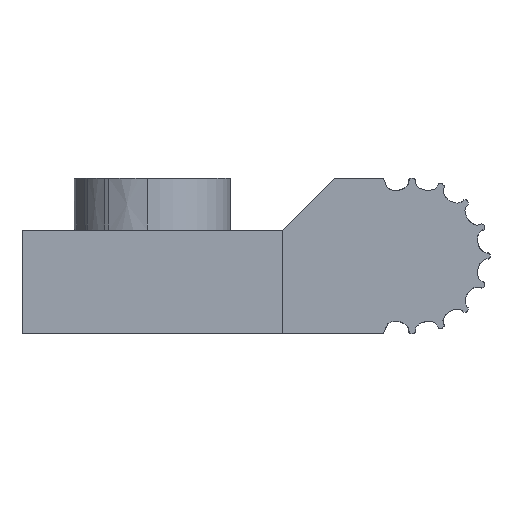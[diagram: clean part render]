
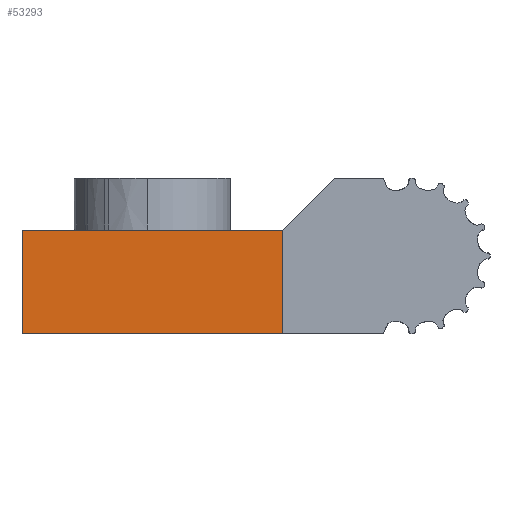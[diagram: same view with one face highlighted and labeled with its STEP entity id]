
A CAD part, left-side view. The second image highlights one B-rep face of the part: STEP entity #53293.
In plain terms, the highlighted planar face has unit normal (-1, -0.001, 0.001).
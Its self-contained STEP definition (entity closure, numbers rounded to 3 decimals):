
#32 = PLANE('',#33);
#33 = AXIS2_PLACEMENT_3D('',#34,#35,#36);
#34 = CARTESIAN_POINT('',(0.112,1.355,
    0.));
#35 = DIRECTION('',(0.,0.,1.));
#36 = DIRECTION('',(0.,1.,0.));
#281 = VERTEX_POINT('',#282);
#282 = CARTESIAN_POINT('',(-7.997,-0.806,
    0.));
#296 = PLANE('',#297);
#297 = AXIS2_PLACEMENT_3D('',#298,#299,#300);
#298 = CARTESIAN_POINT('',(-5.699,-0.806,
    1.597));
#299 = DIRECTION('',(0.,-1.,0.));
#300 = DIRECTION('',(-0.,0.,1.));
#308 = EDGE_CURVE('',#281,#309,#311,.T.);
#309 = VERTEX_POINT('',#310);
#310 = CARTESIAN_POINT('',(-8.004,7.2,
    0.));
#311 = SURFACE_CURVE('',#312,(#316,#323),.PCURVE_S1.);
#312 = LINE('',#313,#314);
#313 = CARTESIAN_POINT('',(-7.997,-0.806,
    0.));
#314 = VECTOR('',#315,1.);
#315 = DIRECTION('',(-0.001,1.,
    0.));
#316 = PCURVE('',#32,#317);
#317 = DEFINITIONAL_REPRESENTATION('',(#318),#322);
#318 = LINE('',#319,#320);
#319 = CARTESIAN_POINT('',(-2.161,8.11));
#320 = VECTOR('',#321,1.);
#321 = DIRECTION('',(1.,0.001));
#322 = ( GEOMETRIC_REPRESENTATION_CONTEXT(2) 
PARAMETRIC_REPRESENTATION_CONTEXT() REPRESENTATION_CONTEXT('2D SPACE',''
  ) );
#323 = PCURVE('',#324,#329);
#324 = PLANE('',#325);
#325 = AXIS2_PLACEMENT_3D('',#326,#327,#328);
#326 = CARTESIAN_POINT('',(-8.,3.198,1.596
    ));
#327 = DIRECTION('',(-1.,-0.001,
    0.001));
#328 = DIRECTION('',(-0.001,0.,-1.));
#329 = DEFINITIONAL_REPRESENTATION('',(#330),#334);
#330 = LINE('',#331,#332);
#331 = CARTESIAN_POINT('',(1.596,4.005));
#332 = VECTOR('',#333,1.);
#333 = DIRECTION('',(0.,-1.));
#334 = ( GEOMETRIC_REPRESENTATION_CONTEXT(2) 
PARAMETRIC_REPRESENTATION_CONTEXT() REPRESENTATION_CONTEXT('2D SPACE',''
  ) );
#350 = PLANE('',#351);
#351 = AXIS2_PLACEMENT_3D('',#352,#353,#354);
#352 = CARTESIAN_POINT('',(0.002,7.2,
    1.597));
#353 = DIRECTION('',(0.,-1.,0.));
#354 = DIRECTION('',(-0.,0.,1.));
#5245 = EDGE_CURVE('',#309,#5246,#5248,.T.);
#5246 = VERTEX_POINT('',#5247);
#5247 = CARTESIAN_POINT('',(-8.002,7.2,3.194
    ));
#5248 = SURFACE_CURVE('',#5249,(#5253,#5260),.PCURVE_S1.);
#5249 = LINE('',#5250,#5251);
#5250 = CARTESIAN_POINT('',(-8.004,7.2,
    0.));
#5251 = VECTOR('',#5252,1.);
#5252 = DIRECTION('',(0.001,0.,1.));
#5253 = PCURVE('',#350,#5254);
#5254 = DEFINITIONAL_REPRESENTATION('',(#5255),#5259);
#5255 = LINE('',#5256,#5257);
#5256 = CARTESIAN_POINT('',(-1.597,8.006));
#5257 = VECTOR('',#5258,1.);
#5258 = DIRECTION('',(1.,-0.001));
#5259 = ( GEOMETRIC_REPRESENTATION_CONTEXT(2) 
PARAMETRIC_REPRESENTATION_CONTEXT() REPRESENTATION_CONTEXT('2D SPACE',''
  ) );
#5260 = PCURVE('',#324,#5261);
#5261 = DEFINITIONAL_REPRESENTATION('',(#5262),#5266);
#5262 = LINE('',#5263,#5264);
#5263 = CARTESIAN_POINT('',(1.596,-4.002));
#5264 = VECTOR('',#5265,1.);
#5265 = DIRECTION('',(-1.,0.));
#5266 = ( GEOMETRIC_REPRESENTATION_CONTEXT(2) 
PARAMETRIC_REPRESENTATION_CONTEXT() REPRESENTATION_CONTEXT('2D SPACE',''
  ) );
#5284 = PLANE('',#5285);
#5285 = AXIS2_PLACEMENT_3D('',#5286,#5287,#5288);
#5286 = CARTESIAN_POINT('',(-0.081,3.165,
    3.194));
#5287 = DIRECTION('',(0.,0.,1.));
#5288 = DIRECTION('',(0.,1.,0.));
#5965 = EDGE_CURVE('',#5246,#5966,#5968,.T.);
#5966 = VERTEX_POINT('',#5967);
#5967 = CARTESIAN_POINT('',(-7.995,-0.806,
    3.194));
#5968 = SURFACE_CURVE('',#5969,(#5973,#5980),.PCURVE_S1.);
#5969 = LINE('',#5970,#5971);
#5970 = CARTESIAN_POINT('',(-8.002,7.2,3.194
    ));
#5971 = VECTOR('',#5972,1.);
#5972 = DIRECTION('',(0.001,-1.,0.));
#5973 = PCURVE('',#5284,#5974);
#5974 = DEFINITIONAL_REPRESENTATION('',(#5975),#5979);
#5975 = LINE('',#5976,#5977);
#5976 = CARTESIAN_POINT('',(4.035,7.921));
#5977 = VECTOR('',#5978,1.);
#5978 = DIRECTION('',(-1.,-0.001));
#5979 = ( GEOMETRIC_REPRESENTATION_CONTEXT(2) 
PARAMETRIC_REPRESENTATION_CONTEXT() REPRESENTATION_CONTEXT('2D SPACE',''
  ) );
#5980 = PCURVE('',#324,#5981);
#5981 = DEFINITIONAL_REPRESENTATION('',(#5982),#5986);
#5982 = LINE('',#5983,#5984);
#5983 = CARTESIAN_POINT('',(-1.597,-4.002));
#5984 = VECTOR('',#5985,1.);
#5985 = DIRECTION('',(0.,1.));
#5986 = ( GEOMETRIC_REPRESENTATION_CONTEXT(2) 
PARAMETRIC_REPRESENTATION_CONTEXT() REPRESENTATION_CONTEXT('2D SPACE',''
  ) );
#53293 = ADVANCED_FACE('',(#53294),#324,.T.);
#53294 = FACE_BOUND('',#53295,.T.);
#53295 = EDGE_LOOP('',(#53296,#53317,#53318,#53319));
#53296 = ORIENTED_EDGE('',*,*,#53297,.T.);
#53297 = EDGE_CURVE('',#281,#5966,#53298,.T.);
#53298 = SURFACE_CURVE('',#53299,(#53303,#53310),.PCURVE_S1.);
#53299 = LINE('',#53300,#53301);
#53300 = CARTESIAN_POINT('',(-7.997,-0.806,
    0.));
#53301 = VECTOR('',#53302,1.);
#53302 = DIRECTION('',(0.001,0.,1.));
#53303 = PCURVE('',#324,#53304);
#53304 = DEFINITIONAL_REPRESENTATION('',(#53305),#53309);
#53305 = LINE('',#53306,#53307);
#53306 = CARTESIAN_POINT('',(1.596,4.005));
#53307 = VECTOR('',#53308,1.);
#53308 = DIRECTION('',(-1.,0.));
#53309 = ( GEOMETRIC_REPRESENTATION_CONTEXT(2) 
PARAMETRIC_REPRESENTATION_CONTEXT() REPRESENTATION_CONTEXT('2D SPACE',''
  ) );
#53310 = PCURVE('',#296,#53311);
#53311 = DEFINITIONAL_REPRESENTATION('',(#53312),#53316);
#53312 = LINE('',#53313,#53314);
#53313 = CARTESIAN_POINT('',(-1.597,2.298));
#53314 = VECTOR('',#53315,1.);
#53315 = DIRECTION('',(1.,-0.001));
#53316 = ( GEOMETRIC_REPRESENTATION_CONTEXT(2) 
PARAMETRIC_REPRESENTATION_CONTEXT() REPRESENTATION_CONTEXT('2D SPACE',''
  ) );
#53317 = ORIENTED_EDGE('',*,*,#5965,.F.);
#53318 = ORIENTED_EDGE('',*,*,#5245,.F.);
#53319 = ORIENTED_EDGE('',*,*,#308,.F.);
